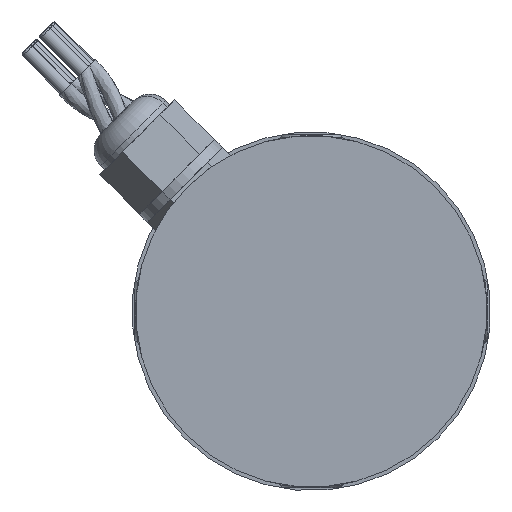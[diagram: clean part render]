
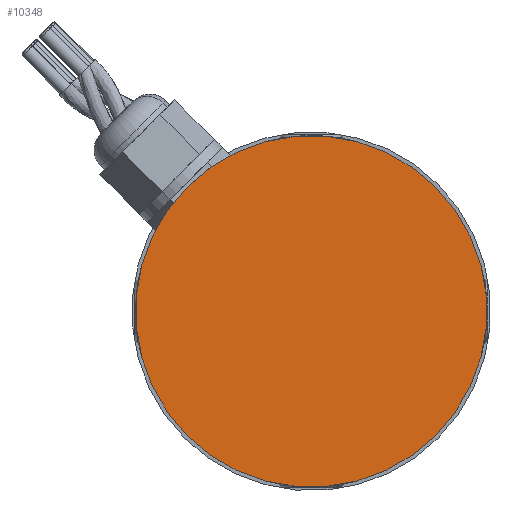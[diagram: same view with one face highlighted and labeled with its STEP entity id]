
A CAD part, left-side view. The second image highlights one B-rep face of the part: STEP entity #10348.
In plain terms, the highlighted planar face has unit normal (-1, 0, 0).
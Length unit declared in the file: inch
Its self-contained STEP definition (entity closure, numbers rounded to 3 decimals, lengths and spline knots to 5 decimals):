
#1078 = CARTESIAN_POINT ( 'NONE',  ( -0.32797, 3.51222, 4.67391 ) ) ;
#2308 = EDGE_LOOP ( 'NONE', ( #13908, #3249 ) ) ;
#2406 = VERTEX_POINT ( 'NONE', #6923 ) ;
#3121 = CIRCLE ( 'NONE', #7487, 1.5624 ) ;
#3249 = ORIENTED_EDGE ( 'NONE', *, *, #10431, .F. ) ;
#3849 = AXIS2_PLACEMENT_3D ( 'NONE', #1078, #13401, #12216 ) ;
#4188 = DIRECTION ( 'NONE',  ( 1., 0., 0. ) ) ;
#4312 = AXIS2_PLACEMENT_3D ( 'NONE', #8733, #4188, #6393 ) ;
#5372 = VERTEX_POINT ( 'NONE', #6653 ) ;
#5809 = EDGE_CURVE ( 'NONE', #5372, #2406, #3121, .T. ) ;
#6393 = DIRECTION ( 'NONE',  ( 0., -0.707, 0.707 ) ) ;
#6653 = CARTESIAN_POINT ( 'NONE',  ( -0.32797, 4.61701, 3.56913 ) ) ;
#6923 = CARTESIAN_POINT ( 'NONE',  ( -0.32797, 2.40744, 5.7787 ) ) ;
#7414 = CIRCLE ( 'NONE', #3849, 1.5624 ) ;
#7487 = AXIS2_PLACEMENT_3D ( 'NONE', #9858, #10992, #10641 ) ;
#8733 = CARTESIAN_POINT ( 'NONE',  ( -0.32797, 3.51222, 4.67391 ) ) ;
#9858 = CARTESIAN_POINT ( 'NONE',  ( -0.32797, 3.51222, 4.67391 ) ) ;
#10348 = ADVANCED_FACE ( 'NONE', ( #11152 ), #14212, .F. ) ;
#10431 = EDGE_CURVE ( 'NONE', #2406, #5372, #7414, .T. ) ;
#10641 = DIRECTION ( 'NONE',  ( 0., -0.707, 0.707 ) ) ;
#10992 = DIRECTION ( 'NONE',  ( 1., 0., 0. ) ) ;
#11152 = FACE_OUTER_BOUND ( 'NONE', #2308, .T. ) ;
#12216 = DIRECTION ( 'NONE',  ( 0., -0.707, 0.707 ) ) ;
#13401 = DIRECTION ( 'NONE',  ( 1., 0., 0. ) ) ;
#13908 = ORIENTED_EDGE ( 'NONE', *, *, #5809, .F. ) ;
#14212 = PLANE ( 'NONE',  #4312 ) ;
